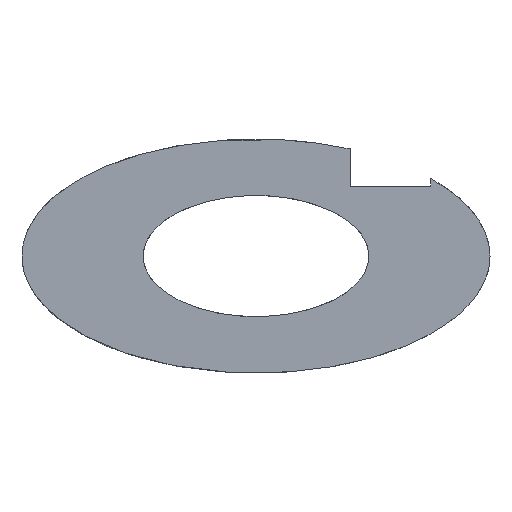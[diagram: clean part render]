
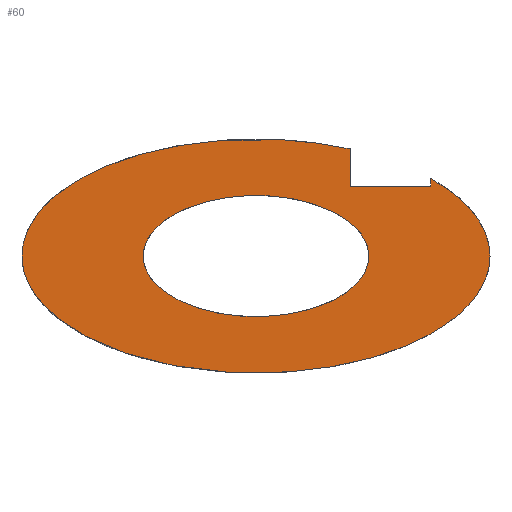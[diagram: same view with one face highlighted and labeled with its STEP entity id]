
A CAD part, top view. The second image highlights one B-rep face of the part: STEP entity #60.
In plain terms, the highlighted planar face has unit normal (0, 0, 1).
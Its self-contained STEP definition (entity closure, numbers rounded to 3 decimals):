
#60=ADVANCED_FACE('',(#82,#83),#84,.T.);
#82=FACE_OUTER_BOUND('',#225,.T.);
#83=FACE_BOUND('',#226,.T.);
#84=PLANE('',#227);
#225=EDGE_LOOP('',(#281,#282,#283,#284,#285,#286));
#226=EDGE_LOOP('',(#287,#288));
#227=AXIS2_PLACEMENT_3D('',#289,#290,#291);
#281=ORIENTED_EDGE('',*,*,#312,.T.);
#282=ORIENTED_EDGE('',*,*,#294,.F.);
#283=ORIENTED_EDGE('',*,*,#316,.F.);
#284=ORIENTED_EDGE('',*,*,#300,.F.);
#285=ORIENTED_EDGE('',*,*,#310,.T.);
#286=ORIENTED_EDGE('',*,*,#307,.T.);
#287=ORIENTED_EDGE('',*,*,#315,.T.);
#288=ORIENTED_EDGE('',*,*,#302,.T.);
#289=CARTESIAN_POINT('',(25.15,-0.918,0.5));
#290=DIRECTION('',(0.0,0.0,1.0));
#291=DIRECTION('',(1.0,0.0,0.0));
#294=EDGE_CURVE('',#317,#320,#321,.T.);
#300=EDGE_CURVE('',#330,#326,#332,.T.);
#302=EDGE_CURVE('',#336,#333,#337,.T.);
#307=EDGE_CURVE('',#346,#344,#347,.T.);
#310=EDGE_CURVE('',#330,#346,#350,.T.);
#312=EDGE_CURVE('',#344,#320,#352,.T.);
#315=EDGE_CURVE('',#333,#336,#355,.T.);
#316=EDGE_CURVE('',#326,#317,#356,.T.);
#317=VERTEX_POINT('',#357);
#320=VERTEX_POINT('',#361);
#321=ELLIPSE('',#362,25.1,12.55);
#326=VERTEX_POINT('',#368);
#330=VERTEX_POINT('',#373);
#332=ELLIPSE('',#376,25.1,12.55);
#333=VERTEX_POINT('',#377);
#336=VERTEX_POINT('',#381);
#337=ELLIPSE('',#382,12.097,6.5);
#344=VERTEX_POINT('',#391);
#346=VERTEX_POINT('',#394);
#347=LINE('',#395,#396);
#350=LINE('',#401,#402);
#352=LINE('',#405,#406);
#355=ELLIPSE('',#409,12.097,6.5);
#356=ELLIPSE('',#410,25.1,12.55);
#357=CARTESIAN_POINT('',(0.05,-0.918,0.5));
#361=CARTESIAN_POINT('',(35.241,10.573,0.5));
#362=AXIS2_PLACEMENT_3D('',#412,#413,#414);
#368=CARTESIAN_POINT('',(50.25,-0.918,0.5));
#373=CARTESIAN_POINT('',(43.881,7.436,0.5));
#376=AXIS2_PLACEMENT_3D('',#424,#425,#426);
#377=CARTESIAN_POINT('',(37.247,-0.918,0.5));
#381=CARTESIAN_POINT('',(13.053,-0.918,0.5));
#382=AXIS2_PLACEMENT_3D('',#428,#429,#430);
#391=CARTESIAN_POINT('',(35.241,6.582,0.5));
#394=CARTESIAN_POINT('',(43.881,6.582,0.5));
#395=CARTESIAN_POINT('',(30.195,6.582,0.5));
#396=VECTOR('',#437,1.0);
#401=CARTESIAN_POINT('',(43.881,2.832,0.5));
#402=VECTOR('',#440,1.0);
#405=CARTESIAN_POINT('',(35.241,5.332,0.5));
#406=VECTOR('',#442,1.0);
#409=AXIS2_PLACEMENT_3D('',#449,#450,#451);
#410=AXIS2_PLACEMENT_3D('',#452,#453,#454);
#412=CARTESIAN_POINT('',(25.15,-0.918,0.5));
#413=DIRECTION('',(0.0,0.0,-1.0));
#414=DIRECTION('',(1.0,0.0,0.0));
#424=CARTESIAN_POINT('',(25.15,-0.918,0.5));
#425=DIRECTION('',(0.0,0.0,-1.0));
#426=DIRECTION('',(1.0,0.0,0.0));
#428=CARTESIAN_POINT('',(25.15,-0.918,0.5));
#429=DIRECTION('',(0.0,0.0,-1.0));
#430=DIRECTION('',(1.0,0.0,0.0));
#437=DIRECTION('',(-1.0,0.0,0.0));
#440=DIRECTION('',(0.0,-1.0,0.0));
#442=DIRECTION('',(0.0,1.0,0.0));
#449=CARTESIAN_POINT('',(25.15,-0.918,0.5));
#450=DIRECTION('',(0.0,0.0,-1.0));
#451=DIRECTION('',(1.0,0.0,0.0));
#452=CARTESIAN_POINT('',(25.15,-0.918,0.5));
#453=DIRECTION('',(0.0,0.0,-1.0));
#454=DIRECTION('',(1.0,0.0,0.0));
